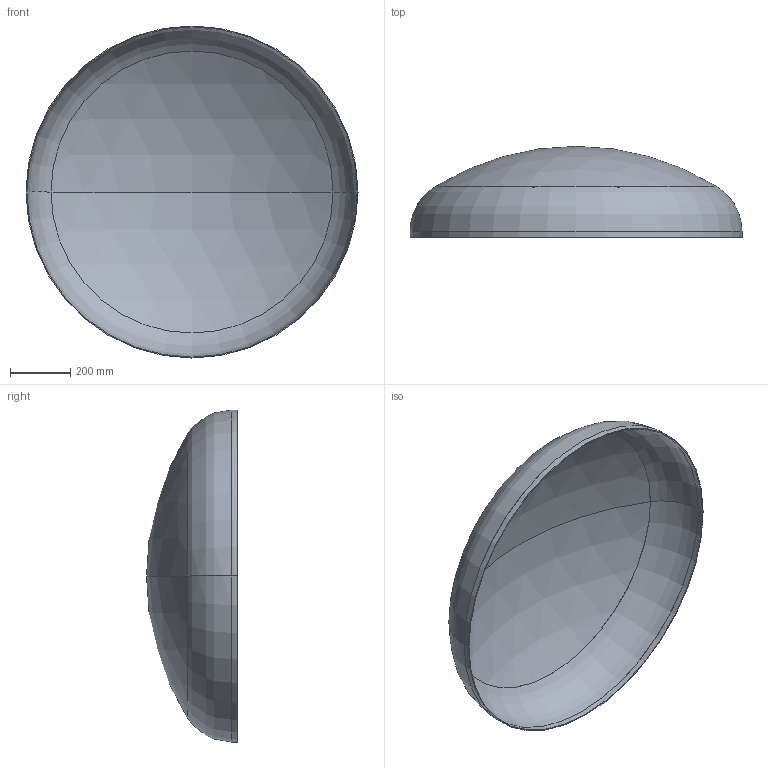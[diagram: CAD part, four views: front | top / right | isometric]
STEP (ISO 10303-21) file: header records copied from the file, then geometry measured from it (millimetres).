
FILE_DESCRIPTION (( 'STEP AP203' ), '1' );
FILE_NAME ('DIN 28013 Korbbogenform_-_Boden DIN 28013 - 1100 x 20 - I - s=3.step', '2016-07-01T08:58:56', ( '' ), ( '' ), 'SwSTEP 2.0', 'SolidWorks 2013', '' );
FILE_SCHEMA (( 'CONFIG_CONTROL_DESIGN' ));
Length unit declared in the file: millimetre
Products named in the file (1): DIN 28013 Korbbogenform_-_Boden DIN 28013 - 1100 x 20 - I - s=3
Bounding box: 1100 x 301.36 x 1100 mm (x, y, z)
Volume: 4144160 mm3; surface area: 2773130.1 mm2
Topology: 1 solids, 1 shells, 13 faces, 24 edges, 14 vertices
Faces by surface type: torus 4, cylinder 4, sphere 4, plane 1
Entity records: 407 total; most frequent: DIRECTION 72, CARTESIAN_POINT 52, ORIENTED_EDGE 48, AXIS2_PLACEMENT_3D 34, EDGE_CURVE 24, CIRCLE 20, VERTEX_POINT 14, EDGE_LOOP 14
